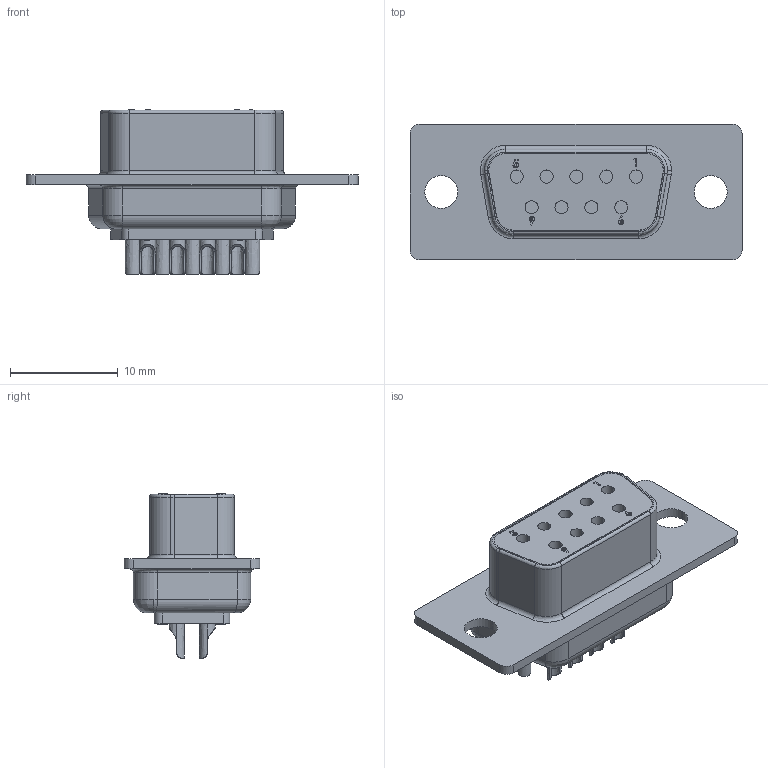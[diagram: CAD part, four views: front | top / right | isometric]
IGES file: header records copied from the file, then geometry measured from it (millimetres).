
Global section: file name: Filename.iges; native system: Open CASCADE 7.3; preprocessor: Open CASCADE IGES processor 7.3; date: 20201223.080450; units: millimetre
Bounding box: 30.8 x 12.6 x 15.27 mm (x, y, z)
Surface area: 2272.2 mm2 (no closed solid volume)
Topology: 0 solids, 0 shells, 352 faces, 1720 edges, 1720 vertices
Faces by surface type: revolution 164, plane 140, bspline 48
